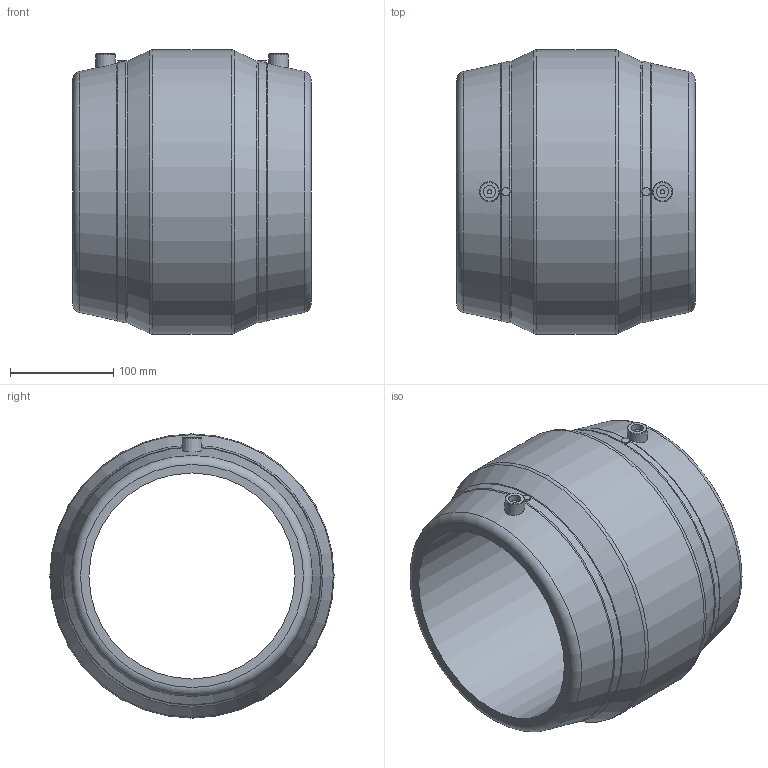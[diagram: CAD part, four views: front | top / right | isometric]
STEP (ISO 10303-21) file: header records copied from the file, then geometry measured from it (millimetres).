
FILE_DESCRIPTION(/* description */ ('Unknown'),/* implementation_level */ '2;1');
FILE_NAME(/* name */ 'MP200H',/* time_stamp */ '2021-05-27T10:17:11+02:00',/* author */ ('Unknown'),/* organization */ ('Unknown'),/* preprocessor_version */ 'ST-DEVELOPER v16.7',/* originating_system */ 'Solid Edge',/* authorisation */ 'Unknown');
FILE_SCHEMA (('AUTOMOTIVE_DESIGN {1 0 10303 214 3 1 1}'));
Length unit declared in the file: millimetre
Products named in the file (1): MP200H
Bounding box: 232 x 276 x 276 mm (x, y, z)
Volume: 4928456.4 mm3; surface area: 360802.1 mm2
Topology: 1 solids, 1 shells, 36 faces, 81 edges, 51 vertices
Faces by surface type: plane 10, torus 10, cone 8, cylinder 8
Full cylindrical faces by diameter (mm): 4 x2, 8 x2, 12 x2, 200 x1, 276 x1
Entity records: 846 total; most frequent: CARTESIAN_POINT 191, DIRECTION 138, ORIENTED_EDGE 84, AXIS2_PLACEMENT_3D 69, EDGE_LOOP 68, FACE_BOUND 68, EDGE_CURVE 42, VERTEX_POINT 38
